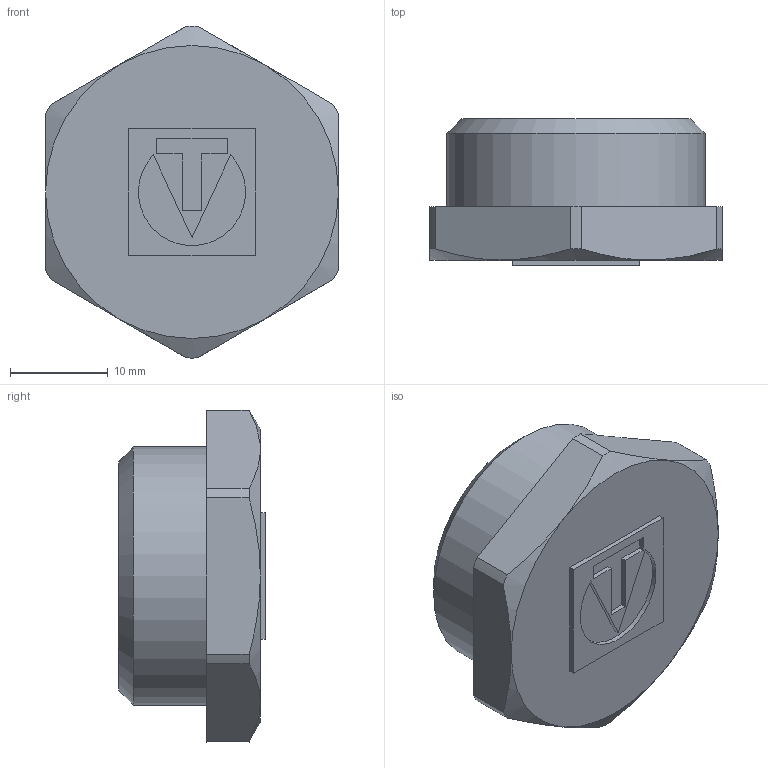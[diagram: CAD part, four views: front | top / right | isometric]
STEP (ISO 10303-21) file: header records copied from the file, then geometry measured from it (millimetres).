
FILE_DESCRIPTION(('STEP AP203'), '1');
FILE_NAME('ÂÐ.753125.004 - VTr.583.N.0005 Ïðîá. ðåçüá', '2024-07-05T13:23:53', ('Boss'), (''), 'C3D Converter', 'C3D Toolkit', '');
FILE_SCHEMA(('CONFIG_CONTROL_DESIGN'));
Length unit declared in the file: millimetre
Products named in the file (1): ВР.753125.004
Bounding box: 30 x 15 x 34 mm (x, y, z)
Volume: 5373.8 mm3; surface area: 3558 mm2
Topology: 1 solids, 1 shells, 41 faces, 97 edges, 63 vertices
Faces by surface type: plane 27, cylinder 9, cone 5
Full cylindrical faces by diameter (mm): 20 x1, 26.441 x1
Entity records: 1459 total; most frequent: CARTESIAN_POINT 490, DIRECTION 191, ORIENTED_EDGE 186, EDGE_CURVE 93, AXIS2_PLACEMENT_3D 65, VERTEX_POINT 63, LINE 61, VECTOR 61
